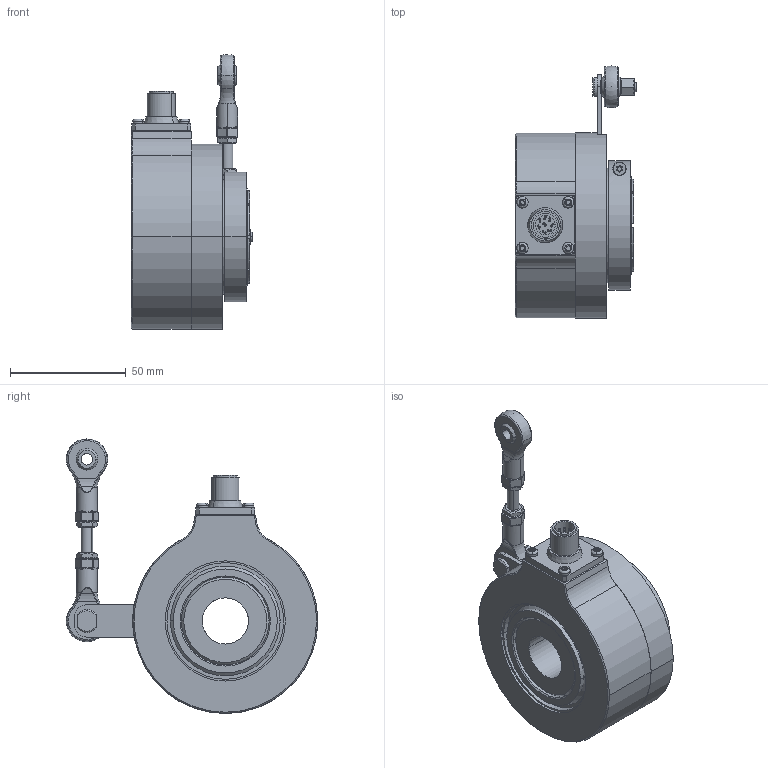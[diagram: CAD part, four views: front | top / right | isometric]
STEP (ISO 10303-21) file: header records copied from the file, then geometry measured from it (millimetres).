
FILE_DESCRIPTION (( 'STEP AP203' ), '1' );
FILE_NAME ('K80I.OXX.XXXXX.XH25820.6XRC2.step', '2025-12-09T11:08:57', ( '' ), ( '' ), 'SwSTEP 2.0', 'SolidWorks 2021', '' );
FILE_SCHEMA (( 'CONFIG_CONTROL_DESIGN' ));
Length unit declared in the file: millimetre
Products named in the file (1): K80I.OXX.XXXXX.XH25820.6XRC2
Bounding box: 52.6 x 108.97 x 119.08 mm (x, y, z)
Volume: 218300.8 mm3; surface area: 75785.5 mm2
Topology: 15 solids, 15 shells, 879 faces, 2277 edges, 1435 vertices
Faces by surface type: plane 321, cylinder 270, bspline 122, cone 94, torus 42, sphere 30
Entity records: 32354 total; most frequent: CARTESIAN_POINT 11600, ORIENTED_EDGE 4414, DIRECTION 4199, EDGE_CURVE 2207, AXIS2_PLACEMENT_3D 1606, VERTEX_POINT 1415, LINE 987, VECTOR 987
